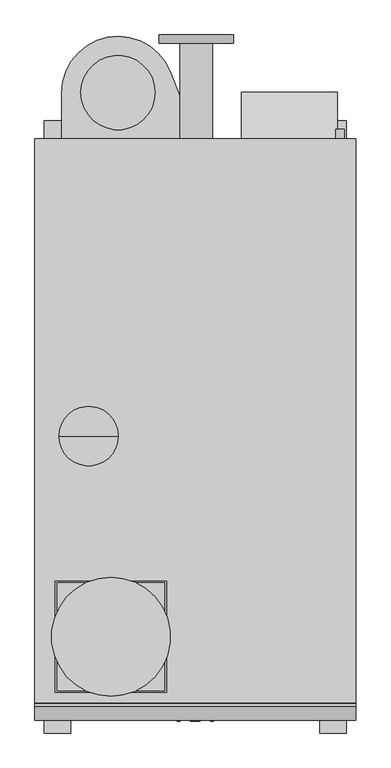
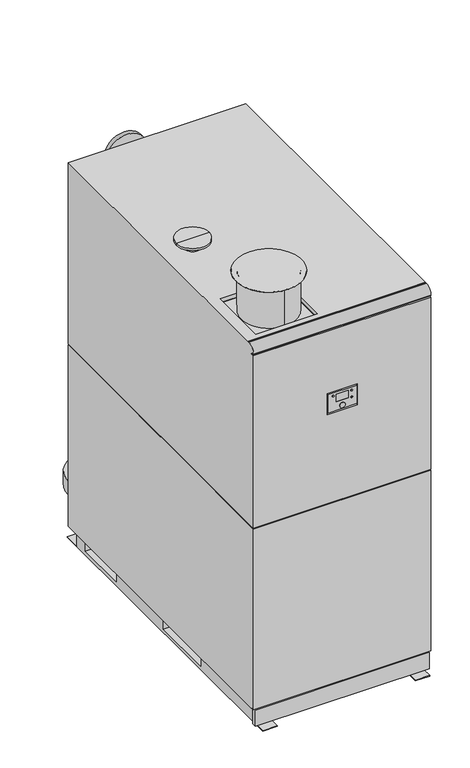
"""IFC4 building model written with IfcOpenShell, lengths in millimetres: unitary equipment geometry, AIC_Boiler_Nesta_Plus_280-840 : N 570 FS Chimney Type B."""

from ifc_helpers import new_model, si_unit, point, frame, frame_2d, origin, place, context, project, spatial, polyline, circle_curve, trimmed, segment, composite_curve, outline, extrude, faceted_brep, source, transform, mapped, element, save
from ifc_brep_helpers import plane_surface, cylinder_surface, advanced_brep


def unitary_equipment_0de9ce6d(model_context):
    return source(origin(), model_context, "Body", "SolidModel", [
        extrude(outline(composite_curve([segment(trimmed(circle_curve(frame_2d((100.0, 329.5)), 13.35), [point((100.0, 342.85))], [point((100.0, 316.15))], False, "CARTESIAN"), True, "CONTINUOUS"), segment(trimmed(circle_curve(frame_2d((100.0, 329.5)), 13.35), [point((100.0, 316.15))], [point((100.0, 342.85))], False, "CARTESIAN"), True, "CONTINUOUS")], self_intersect=False)), frame((0.0, 91.0, 0.0), z_axis=(0.0, 1.0, 0.0), x_axis=(0.0, 0.0, 1.0)), (0.0, 0.0, 1.0), 24.0),
        faceted_brep([(382.5, 0.0, 80.0), (382.5, 126.0, 80.0), (382.5, 126.0, 81.0), (382.5, 1.0, 81.0), (382.5, 1.0, 140.0), (382.5, 126.0, 140.0), (382.5, 126.0, 242.0), (382.5, 0.0, 310.0), (124.5, 0.0, 80.0), (124.5, 0.0, 310.0), (124.5, 126.0, 242.0), (124.5, 126.0, 80.0), (300.5, 126.0, 140.0), (300.5, 126.0, 81.0), (349.5, 1.0, 140.0), (349.5, 1.0, 81.0), (349.5, 91.0, 81.0), (349.5, 91.0, 140.0), (300.5, 91.0, 81.0), (300.5, 91.0, 140.0)], [[[0, 1, 2, 3, 4, 5, 6, 7]], [[8, 9, 10, 11]], [[1, 0, 8, 11]], [[11, 10, 6, 5, 12, 13, 2, 1]], [[7, 6, 10, 9]], [[0, 7, 9, 8]], [[14, 4, 3, 15]], [[14, 15, 16, 17]], [[15, 3, 2, 13, 18, 16]], [[4, 14, 17, 19, 12, 5]], [[19, 17, 16, 18]], [[19, 18, 13, 12]]]),
        extrude(outline(composite_curve([segment(trimmed(circle_curve(frame_2d((1520.0, 0.0)), 13.0), [point((1520.0, -13.0))], [point((1520.0, 13.0))], False, "CARTESIAN"), True, "CONTINUOUS"), segment(trimmed(circle_curve(frame_2d((1520.0, 0.0)), 13.0), [point((1520.0, 13.0))], [point((1520.0, -13.0))], False, "CARTESIAN"), True, "CONTINUOUS")], self_intersect=False)), frame((0.0, -1568.0, 0.0), z_axis=(0.0, 1.0, 0.0), x_axis=(0.0, 0.0, 1.0)), (0.0, 0.0, 1.0), 3.0),
        extrude(outline(composite_curve([segment(trimmed(circle_curve(frame_2d((1581.0, -45.0)), 4.0), [point((1581.0, -49.0))], [point((1581.0, -41.0))], False, "CARTESIAN"), True, "CONTINUOUS"), segment(trimmed(circle_curve(frame_2d((1581.0, -45.0)), 4.0), [point((1581.0, -41.0))], [point((1581.0, -49.0))], False, "CARTESIAN"), True, "CONTINUOUS")], self_intersect=False)), frame((0.0, -1567.0, 0.0), z_axis=(0.0, 1.0, 0.0), x_axis=(0.0, 0.0, 1.0)), (0.0, 0.0, 1.0), 2.0),
        extrude(outline(composite_curve([segment(trimmed(circle_curve(frame_2d((1581.0, 45.0)), 4.0), [point((1581.0, 41.0))], [point((1581.0, 49.0))], False, "CARTESIAN"), True, "CONTINUOUS"), segment(trimmed(circle_curve(frame_2d((1581.0, 45.0)), 4.0), [point((1581.0, 49.0))], [point((1581.0, 41.0))], False, "CARTESIAN"), True, "CONTINUOUS")], self_intersect=False)), frame((0.0, -1567.0, 0.0), z_axis=(0.0, 1.0, 0.0), x_axis=(0.0, 0.0, 1.0)), (0.0, 0.0, 1.0), 2.0),
        extrude(outline(composite_curve([segment(trimmed(circle_curve(frame_2d((1546.0, 45.0)), 4.0), [point((1546.0, 41.0))], [point((1546.0, 49.0))], False, "CARTESIAN"), True, "CONTINUOUS"), segment(trimmed(circle_curve(frame_2d((1546.0, 45.0)), 4.0), [point((1546.0, 49.0))], [point((1546.0, 41.0))], False, "CARTESIAN"), True, "CONTINUOUS")], self_intersect=False)), frame((0.0, -1567.0, 0.0), z_axis=(0.0, 1.0, 0.0), x_axis=(0.0, 0.0, 1.0)), (0.0, 0.0, 1.0), 2.0),
        faceted_brep([(71.0, -1555.0, 1596.0), (71.0, -1555.0, 1502.0), (-71.0, -1555.0, 1502.0), (-71.0, -1555.0, 1596.0), (71.0, -1565.0, 1596.0), (-71.0, -1565.0, 1596.0), (-71.0, -1565.0, 1502.0), (71.0, -1565.0, 1502.0), (-30.0, -1565.0, 1585.0), (30.0, -1565.0, 1585.0), (30.0, -1565.0, 1545.0), (-30.0, -1565.0, 1545.0), (30.0, -1564.0, 1585.0), (-30.0, -1564.0, 1585.0), (-30.0, -1564.0, 1545.0), (30.0, -1564.0, 1545.0)], [[[0, 1, 2, 3]], [[4, 5, 6, 7], [8, 9, 10, 11]], [[0, 3, 5, 4]], [[3, 2, 6, 5]], [[2, 1, 7, 6]], [[1, 0, 4, 7]], [[12, 13, 14, 15]], [[13, 12, 9, 8]], [[14, 13, 8, 11]], [[15, 14, 11, 10]], [[12, 15, 10, 9]]]),
        advanced_brep(
        [(-287.5, -800.0, 1970.0), (-324.5, -800.0, 1970.0), (-250.5, -800.0, 1970.0), (-207.5, -800.0, 2017.0), (-367.5, -800.0, 2017.0), (-287.5, -800.0, 2017.0), (-207.5, -800.0, 2006.0), (-367.5, -800.0, 2006.0), (-250.5, -800.0, 2006.0), (-324.5, -800.0, 2006.0)],
        [
            (0, 1),
            (1, 2, circle_curve(frame((-287.5, -800.0, 1970.0), z_axis=(0.0, 0.0, -1.0), x_axis=(-1.0, 0.0, 0.0)), 37.0)),
            (2, 0),
            (2, 1, circle_curve(frame((-287.5, -800.0, 1970.0), z_axis=(0.0, 0.0, -1.0), x_axis=(-1.0, 0.0, 0.0)), 37.0)),
            (3, 4, circle_curve(frame((-287.5, -800.0, 2017.0), z_axis=(0.0, 0.0, 1.0), x_axis=(-1.0, 0.0, 0.0)), 80.0)),
            (4, 5),
            (5, 3),
            (4, 3, circle_curve(frame((-287.5, -800.0, 2017.0), z_axis=(0.0, 0.0, 1.0), x_axis=(-1.0, 0.0, 0.0)), 80.0)),
            (6, 7, circle_curve(frame((-287.5, -800.0, 2006.0), z_axis=(0.0, 0.0, 1.0), x_axis=(-1.0, 0.0, 0.0)), 80.0)),
            (7, 4),
            (3, 6),
            (7, 6, circle_curve(frame((-287.5, -800.0, 2006.0), z_axis=(0.0, 0.0, 1.0), x_axis=(-1.0, 0.0, 0.0)), 80.0)),
            (8, 9, circle_curve(frame((-287.5, -800.0, 2006.0), z_axis=(0.0, 0.0, 1.0), x_axis=(-1.0, 0.0, 0.0)), 37.0)),
            (9, 7),
            (6, 8),
            (9, 8, circle_curve(frame((-287.5, -800.0, 2006.0), z_axis=(0.0, 0.0, 1.0), x_axis=(-1.0, 0.0, 0.0)), 37.0)),
            (1, 9),
            (8, 2),
        ],
        [
            plane_surface(frame((-287.5, -800.0, 1970.0), z_axis=(0.0, 0.0, -1.0), x_axis=(-1.0, 0.0, 0.0))),
            plane_surface(frame((-287.5, -800.0, 2017.0), z_axis=(0.0, 0.0, 1.0), x_axis=(-1.0, 0.0, 0.0))),
            cylinder_surface(frame((-287.5, -800.0, 1945.0), z_axis=(0.0, 0.0, -1.0), x_axis=(-1.0, 0.0, 0.0)), 80.0),
            plane_surface(frame((-287.5, -800.0, 2006.0), z_axis=(0.0, 0.0, -1.0), x_axis=(-1.0, 0.0, 0.0))),
            cylinder_surface(frame((-287.5, -800.0, 1945.0), z_axis=(0.0, 0.0, -1.0), x_axis=(-1.0, 0.0, 0.0)), 37.0),
        ],
        [
            (0, [[1, 2, 3]]),
            (0, [[-3, 4, -1]]),
            (1, [[5, 6, 7]]),
            (1, [[8, -7, -6]]),
            (2, [[9, 10, -5, 11]]),
            (2, [[12, -11, -8, -10]]),
            (3, [[13, 14, -9, 15]]),
            (3, [[16, -15, -12, -14]]),
            (4, [[-2, 17, -13, 18]]),
            (4, [[-4, -18, -16, -17]]),
        ],
    ),
        extrude(outline(composite_curve([segment(trimmed(circle_curve(frame_2d((1038.0, 390.5)), 11.6), [point((1038.0, 378.9))], [point((1038.0, 402.1))], False, "CARTESIAN"), True, "CONTINUOUS"), segment(trimmed(circle_curve(frame_2d((1038.0, 390.5)), 11.6), [point((1038.0, 402.1))], [point((1038.0, 378.9))], False, "CARTESIAN"), True, "CONTINUOUS")], self_intersect=False)), frame((0.0, 0.0, 0.0), z_axis=(0.0, 1.0, 0.0), x_axis=(0.0, 0.0, 1.0)), (0.0, 0.0, 1.0), 26.0),
        advanced_brep(
        [(-227.5, -1180.0, 2154.0), (-227.5, -1500.0, 2154.0), (-227.5, -1475.0, 2154.0), (-227.5, -1205.0, 2154.0), (-227.5, -1180.0, 2155.0), (-227.5, -1500.0, 2155.0), (-227.5, -1205.0, 1950.0), (-227.5, -1475.0, 1950.0)],
        [
            (0, 1, circle_curve(frame((-227.5, -1340.0, 2154.0), z_axis=(0.0, 0.0, -1.0), x_axis=(0.0, -1.0, 0.0)), 160.0)),
            (1, 0, circle_curve(frame((-227.5, -1340.0, 2154.0), z_axis=(0.0, 0.0, -1.0), x_axis=(0.0, -1.0, 0.0)), 160.0)),
            (2, 3, circle_curve(frame((-227.5, -1340.0, 2154.0), z_axis=(0.0, 0.0, 1.0), x_axis=(0.0, -1.0, 0.0)), 135.0)),
            (3, 2, circle_curve(frame((-227.5, -1340.0, 2154.0), z_axis=(0.0, 0.0, 1.0), x_axis=(0.0, -1.0, 0.0)), 135.0)),
            (4, 5, circle_curve(frame((-227.5, -1340.0, 2155.0), z_axis=(0.0, 0.0, 1.0), x_axis=(0.0, -1.0, 0.0)), 160.0)),
            (5, 4, circle_curve(frame((-227.5, -1340.0, 2155.0), z_axis=(0.0, 0.0, 1.0), x_axis=(0.0, -1.0, 0.0)), 160.0)),
            (0, 4),
            (5, 1),
            (6, 7, circle_curve(frame((-227.5, -1340.0, 1950.0), z_axis=(0.0, 0.0, -1.0), x_axis=(0.0, -1.0, 0.0)), 135.0)),
            (7, 6, circle_curve(frame((-227.5, -1340.0, 1950.0), z_axis=(0.0, 0.0, -1.0), x_axis=(0.0, -1.0, 0.0)), 135.0)),
            (6, 3),
            (2, 7),
        ],
        [
            plane_surface(frame((-227.5, -1500.0, 2154.0), z_axis=(0.0, 0.0, -1.0), x_axis=(-1.0, 0.0, 0.0))),
            plane_surface(frame((-227.5, -1500.0, 2155.0), z_axis=(0.0, 0.0, 1.0), x_axis=(1.0, 0.0, 0.0))),
            cylinder_surface(frame((-227.5, -1340.0, 2155.0), z_axis=(0.0, 0.0, -1.0), x_axis=(0.0, -1.0, 0.0)), 160.0),
            plane_surface(frame((-227.5, -1475.0, 1950.0), z_axis=(0.0, 0.0, -1.0), x_axis=(-1.0, 0.0, 0.0))),
            cylinder_surface(frame((-227.5, -1340.0, 2154.0), z_axis=(0.0, 0.0, -1.0), x_axis=(0.0, -1.0, 0.0)), 135.0),
        ],
        [
            (0, [[1, 2], [3, 4]]),
            (1, [[5, 6]]),
            (2, [[-1, 7, -6, 8]]),
            (2, [[-2, -8, -5, -7]]),
            (3, [[9, 10]]),
            (4, [[-9, 11, -3, 12]]),
            (4, [[-10, -12, -4, -11]]),
        ],
    ),
        extrude(outline(polyline([(-82.5, -1195.0), (-82.5, -1485.0), (-372.5, -1485.0), (-372.5, -1195.0), (-82.5, -1195.0)])), frame((0.0, 0.0, 1950.0), z_axis=(0.0, 0.0, 1.0), x_axis=(1.0, 0.0, 0.0)), (0.0, 0.0, 1.0), 1.0),
        advanced_brep(
        [(102.5, 258.0, 1706.0), (-97.5, 258.0, 1706.0), (46.5, 258.0, 1706.0), (-41.5, 258.0, 1706.0), (102.5, 280.0, 1706.0), (-97.5, 280.0, 1706.0), (-41.5, -10.0, 1706.0), (46.5, -10.0, 1706.0)],
        [
            (0, 1, circle_curve(frame((2.5, 258.0, 1706.0), z_axis=(0.0, -1.0, 0.0), x_axis=(-1.0, 0.0, 0.0)), 100.0)),
            (1, 0, circle_curve(frame((2.5, 258.0, 1706.0), z_axis=(0.0, -1.0, 0.0), x_axis=(-1.0, 0.0, 0.0)), 100.0)),
            (2, 3, circle_curve(frame((2.5, 258.0, 1706.0), z_axis=(0.0, 1.0, 0.0), x_axis=(1.0, 0.0, 0.0)), 44.0)),
            (3, 2, circle_curve(frame((2.5, 258.0, 1706.0), z_axis=(0.0, 1.0, 0.0), x_axis=(1.0, 0.0, 0.0)), 44.0)),
            (4, 5, circle_curve(frame((2.5, 280.0, 1706.0), z_axis=(0.0, 1.0, 0.0), x_axis=(-1.0, 0.0, 0.0)), 100.0)),
            (5, 4, circle_curve(frame((2.5, 280.0, 1706.0), z_axis=(0.0, 1.0, 0.0), x_axis=(-1.0, 0.0, 0.0)), 100.0)),
            (1, 5),
            (4, 0),
            (6, 7, circle_curve(frame((2.5, -10.0, 1706.0), z_axis=(0.0, -1.0, 0.0), x_axis=(1.0, 0.0, 0.0)), 44.0)),
            (7, 6, circle_curve(frame((2.5, -10.0, 1706.0), z_axis=(0.0, -1.0, 0.0), x_axis=(1.0, 0.0, 0.0)), 44.0)),
            (6, 3),
            (2, 7),
        ],
        [
            plane_surface(frame((-97.5, 258.0, 1706.0), z_axis=(0.0, -1.0, 0.0), x_axis=(0.0, 0.0, -1.0))),
            plane_surface(frame((-97.5, 280.0, 1706.0), z_axis=(0.0, 1.0, 0.0), x_axis=(0.0, 0.0, 1.0))),
            cylinder_surface(frame((2.5, 258.0, 1706.0), z_axis=(0.0, 1.0, 0.0), x_axis=(-1.0, 0.0, 0.0)), 100.0),
            plane_surface(frame((46.5, -10.0, 1706.0), z_axis=(0.0, -1.0, 0.0), x_axis=(0.0, 0.0, 1.0))),
            cylinder_surface(frame((2.5, 280.0, 1706.0), z_axis=(0.0, -1.0, 0.0), x_axis=(1.0, 0.0, 0.0)), 44.0),
        ],
        [
            (0, [[1, 2], [3, 4]]),
            (1, [[5, 6]]),
            (2, [[-2, 7, -5, 8]]),
            (2, [[-1, -8, -6, -7]]),
            (3, [[9, 10]]),
            (4, [[-9, 11, -3, 12]]),
            (4, [[-10, -12, -4, -11]]),
        ],
    ),
        advanced_brep(
        [(-41.5, 0.0, 335.0), (46.5, 0.0, 335.0), (102.5, 280.0, 335.0), (-97.5, 280.0, 335.0), (-41.5, 258.0, 335.0), (46.5, 258.0, 335.0), (102.5, 258.0, 335.0), (-97.5, 258.0, 335.0)],
        [
            (0, 1, circle_curve(frame((2.5, 0.0, 335.0), z_axis=(0.0, -1.0, 0.0), x_axis=(1.0, 0.0, 0.0)), 44.0)),
            (1, 0, circle_curve(frame((2.5, 0.0, 335.0), z_axis=(0.0, -1.0, 0.0), x_axis=(1.0, 0.0, 0.0)), 44.0)),
            (2, 3, circle_curve(frame((2.5, 280.0, 335.0), z_axis=(0.0, 1.0, 0.0), x_axis=(-1.0, 0.0, 0.0)), 100.0)),
            (3, 2, circle_curve(frame((2.5, 280.0, 335.0), z_axis=(0.0, 1.0, 0.0), x_axis=(-1.0, 0.0, 0.0)), 100.0)),
            (0, 4),
            (4, 5, circle_curve(frame((2.5, 258.0, 335.0), z_axis=(0.0, -1.0, 0.0), x_axis=(1.0, 0.0, 0.0)), 44.0)),
            (5, 1),
            (5, 4, circle_curve(frame((2.5, 258.0, 335.0), z_axis=(0.0, -1.0, 0.0), x_axis=(1.0, 0.0, 0.0)), 44.0)),
            (6, 7, circle_curve(frame((2.5, 258.0, 335.0), z_axis=(0.0, -1.0, 0.0), x_axis=(-1.0, 0.0, 0.0)), 100.0)),
            (7, 6, circle_curve(frame((2.5, 258.0, 335.0), z_axis=(0.0, -1.0, 0.0), x_axis=(-1.0, 0.0, 0.0)), 100.0)),
            (7, 3),
            (2, 6),
        ],
        [
            plane_surface(frame((46.5, 0.0, 335.0), z_axis=(0.0, -1.0, 0.0), x_axis=(0.0, 0.0, 1.0))),
            plane_surface(frame((46.5, 280.0, 335.0), z_axis=(0.0, 1.0, 0.0), x_axis=(0.0, 0.0, -1.0))),
            cylinder_surface(frame((2.5, 280.0, 335.0), z_axis=(0.0, -1.0, 0.0), x_axis=(1.0, 0.0, 0.0)), 44.0),
            plane_surface(frame((-97.5, 258.0, 335.0), z_axis=(0.0, -1.0, 0.0), x_axis=(0.0, 0.0, -1.0))),
            cylinder_surface(frame((2.5, 258.0, 335.0), z_axis=(0.0, 1.0, 0.0), x_axis=(-1.0, 0.0, 0.0)), 100.0),
        ],
        [
            (0, [[1, 2]]),
            (1, [[3, 4]]),
            (2, [[-1, 5, 6, 7]]),
            (2, [[-2, -7, 8, -5]]),
            (3, [[9, 10], [-6, -8]]),
            (4, [[-10, 11, -3, 12]]),
            (4, [[-9, -12, -4, -11]]),
        ],
    ),
        extrude(outline(composite_curve([segment(trimmed(circle_curve(frame_2d((-208.5, 125.0)), 100.0), [point((-108.5, 125.0))], [point((-308.5, 125.0))], False, "CARTESIAN"), True, "CONTINUOUS"), segment(trimmed(circle_curve(frame_2d((-208.5, 125.0)), 100.0), [point((-308.5, 125.0))], [point((-108.5, 125.0))], False, "CARTESIAN"), True, "CONTINUOUS")], self_intersect=False)), frame((0.0, 0.0, 228.0), z_axis=(0.0, 0.0, 1.0), x_axis=(1.0, 0.0, 0.0)), (0.0, 0.0, 1.0), 97.0),
        extrude(outline(composite_curve([segment(trimmed(circle_curve(frame_2d((-208.5, 125.0)), 151.4514382), [point((-359.9514382, 125.0))], [point((-67.3169163, 179.8167402))], False, "CARTESIAN"), True, "CONTINUOUS"), segment(polyline([(-67.3169163, 179.8167402), (2.5, 0.0), (-359.9514382, 0.0), (-359.9514382, 125.0)]), True, "CONTINUOUS")], self_intersect=False)), frame((0.0, 0.0, 157.0), z_axis=(0.0, 0.0, 1.0), x_axis=(1.0, 0.0, 0.0)), (0.0, 0.0, 1.0), 71.0),
        advanced_brep(
        [(432.5, 0.0, 1970.0), (-432.5, 0.0, 1970.0), (-432.5, -1517.0, 1970.0), (432.5, -1517.0, 1970.0), (-377.5, -1190.0, 1970.0), (-77.5, -1190.0, 1970.0), (-77.5, -1490.0, 1970.0), (-377.5, -1490.0, 1970.0), (-432.5, -1526.6616502, 1970.0), (432.5, -1526.6616502, 1970.0), (432.5, -1521.0, 1970.0), (-432.5, -1521.0, 1970.0), (36.0, -1545.0, 0.0), (-36.0, -1545.0, 0.0), (-36.0, -31.0, 0.0), (36.0, -31.0, 0.0), (-407.5, 49.0, 0.0), (-335.5, 49.0, 0.0), (-335.5, -1599.0, 0.0), (-407.5, -1599.0, 0.0), (335.5, 49.0, 0.0), (407.5, 49.0, 0.0), (407.5, -1599.0, 0.0), (335.5, -1599.0, 0.0), (432.5, 0.0, 1036.0), (432.5, -1517.0, 1968.0), (432.5, -1521.0, 1968.0), (432.5, -1565.0, 1931.6616502), (432.5, -1565.0, 1929.0), (432.5, -1545.0, 1929.0), (432.5, -1545.0, 1923.0), (432.5, -1565.0, 1923.0), (432.5, -1565.0, 1036.0), (432.5, 0.0, 1030.0), (432.5, -1565.0, 1030.0), (432.5, -1565.0, 100.0), (432.5, -1545.0, 100.0), (432.5, -1545.0, 95.0), (432.5, 0.0, 95.0), (423.5, 0.0, 1036.0), (423.5, 0.0, 1030.0), (-432.5, 0.0, 95.0), (-432.5, 0.0, 1030.0), (-423.5, 0.0, 1030.0), (-423.5, 0.0, 1036.0), (-432.5, 0.0, 1036.0), (-432.5, -1565.0, 1036.0), (-432.5, -1565.0, 1923.0), (-432.5, -1545.0, 1923.0), (-432.5, -1545.0, 1929.0), (-432.5, -1565.0, 1929.0), (-432.5, -1565.0, 1931.6616502), (-432.5, -1521.0, 1968.0), (-432.5, -1517.0, 1968.0), (-432.5, -1565.0, 1030.0), (-432.5, -1545.0, 95.0), (-432.5, -1545.0, 100.0), (-432.5, -1565.0, 100.0), (-73.0, -1565.0, 1603.0), (73.0, -1565.0, 1603.0), (73.0, -1565.0, 1495.0), (-73.0, -1565.0, 1495.0), (423.5, -1565.0, 12.0), (423.5, -1565.0, 95.0), (-423.5, -1565.0, 95.0), (-423.5, -1565.0, 12.0), (-423.5, -1545.0, 1036.0), (423.5, -1545.0, 1036.0), (423.5, -1545.0, 1030.0), (-423.5, -1545.0, 1030.0), (36.0, -1545.0, 12.0), (-36.0, -1545.0, 12.0), (-423.5, -1545.0, 95.0), (-407.5, -1545.0, 95.0), (-335.5, -1545.0, 95.0), (-36.0, -1545.0, 95.0), (36.0, -1545.0, 95.0), (335.5, -1545.0, 95.0), (407.5, -1545.0, 95.0), (423.5, -1545.0, 95.0), (-335.5, -1545.0, 12.0), (-407.5, -1545.0, 12.0), (-407.5, -1545.0, 3.0), (-335.5, -1545.0, 3.0), (407.5, -1545.0, 12.0), (335.5, -1545.0, 12.0), (335.5, -1545.0, 3.0), (407.5, -1545.0, 3.0), (423.5, -1545.0, 12.0), (-423.5, -1545.0, 12.0), (-36.0, -1545.0, 95.0), (-335.5, -1545.0, 95.0), (-335.5, -31.0, 95.0), (-407.5, -31.0, 95.0), (-407.5, -1545.0, 95.0), (407.5, -1545.0, 95.0), (407.5, -31.0, 95.0), (335.5, -31.0, 95.0), (335.5, -1545.0, 95.0), (36.0, -1545.0, 95.0), (36.0, -31.0, 95.0), (-36.0, -31.0, 95.0), (-407.5, -31.0, 3.0), (-407.5, 49.0, 3.0), (-407.5, -1599.0, 3.0), (-407.5, -762.0, 80.0), (-407.5, -1077.0, 80.0), (-407.5, -1077.0, 20.0), (-407.5, -762.0, 20.0), (-407.5, -100.0, 80.0), (-407.5, -362.0, 80.0), (-407.5, -362.0, 20.0), (-407.5, -100.0, 20.0), (407.5, -1599.0, 3.0), (407.5, 49.0, 3.0), (407.5, -31.0, 3.0), (407.5, -1077.0, 80.0), (407.5, -762.0, 80.0), (407.5, -762.0, 20.0), (407.5, -1077.0, 20.0), (407.5, -362.0, 80.0), (407.5, -100.0, 80.0), (407.5, -100.0, 20.0), (407.5, -362.0, 20.0), (-335.5, -1599.0, 3.0), (-335.5, 49.0, 3.0), (-335.5, -31.0, 3.0), (-335.5, -1077.0, 80.0), (-335.5, -762.0, 80.0), (-335.5, -762.0, 20.0), (-335.5, -1077.0, 20.0), (-335.5, -362.0, 80.0), (-335.5, -100.0, 80.0), (-335.5, -100.0, 20.0), (-335.5, -362.0, 20.0), (-36.0, -762.0, 80.0), (-36.0, -1077.0, 80.0), (-36.0, -1077.0, 20.0), (-36.0, -762.0, 20.0), (-36.0, -100.0, 80.0), (-36.0, -362.0, 80.0), (-36.0, -362.0, 20.0), (-36.0, -100.0, 20.0), (36.0, -1077.0, 80.0), (36.0, -762.0, 80.0), (36.0, -762.0, 20.0), (36.0, -1077.0, 20.0), (36.0, -362.0, 80.0), (36.0, -100.0, 80.0), (36.0, -100.0, 20.0), (36.0, -362.0, 20.0), (335.5, -31.0, 3.0), (335.5, 49.0, 3.0), (335.5, -1599.0, 3.0), (335.5, -762.0, 80.0), (335.5, -1077.0, 80.0), (335.5, -1077.0, 20.0), (335.5, -762.0, 20.0), (335.5, -100.0, 80.0), (335.5, -362.0, 80.0), (335.5, -362.0, 20.0), (335.5, -100.0, 20.0), (73.0, -1545.0, 1603.0), (-73.0, -1545.0, 1603.0), (-73.0, -1545.0, 1495.0), (73.0, -1545.0, 1495.0), (-77.5, -1190.0, 1950.0), (-377.5, -1190.0, 1950.0), (-377.5, -1490.0, 1950.0), (-77.5, -1490.0, 1950.0)],
        [
            (0, 1),
            (1, 2),
            (2, 3),
            (3, 0),
            (4, 5),
            (5, 6),
            (6, 7),
            (7, 4),
            (8, 9),
            (9, 10),
            (10, 11),
            (11, 8),
            (12, 13),
            (13, 14),
            (14, 15),
            (15, 12),
            (16, 17),
            (17, 18),
            (18, 19),
            (19, 16),
            (20, 21),
            (21, 22),
            (22, 23),
            (23, 20),
            (24, 0),
            (3, 25),
            (25, 26),
            (26, 10),
            (9, 27, circle_curve(frame((432.5, -1526.6616502, 1931.6616502), z_axis=(1.0, 0.0, 0.0), x_axis=(0.0, 1.0, 0.0)), 38.3383498)),
            (27, 28),
            (28, 29),
            (29, 30),
            (30, 31),
            (31, 32),
            (32, 24),
            (33, 34),
            (34, 35),
            (35, 36),
            (36, 37),
            (37, 38),
            (38, 33),
            (24, 39),
            (39, 40),
            (40, 33),
            (38, 41),
            (41, 42),
            (42, 43),
            (43, 44),
            (44, 45),
            (45, 1),
            (45, 46),
            (46, 47),
            (47, 48),
            (48, 49),
            (49, 50),
            (50, 51),
            (51, 8, circle_curve(frame((-432.5, -1526.6616502, 1931.6616502), z_axis=(-1.0, 0.0, 0.0), x_axis=(0.0, 1.0, 0.0)), 38.3383498)),
            (11, 52),
            (52, 53),
            (53, 2),
            (54, 42),
            (41, 55),
            (55, 56),
            (56, 57),
            (57, 54),
            (46, 32),
            (31, 47),
            (58, 59),
            (59, 60),
            (60, 61),
            (61, 58),
            (34, 54),
            (57, 35),
            (27, 51),
            (50, 28),
            (62, 63),
            (63, 64),
            (64, 65),
            (65, 62),
            (44, 66),
            (66, 67),
            (67, 39),
            (40, 68),
            (68, 69),
            (69, 43),
            (67, 68),
            (66, 69),
            (30, 48),
            (29, 49),
            (26, 52),
            (25, 53),
            (12, 70),
            (70, 71),
            (71, 13),
            (36, 56),
            (55, 72),
            (72, 73),
            (73, 74),
            (74, 75),
            (75, 76),
            (76, 77),
            (77, 78),
            (78, 79),
            (79, 37),
            (80, 81),
            (81, 82),
            (82, 83),
            (83, 80),
            (84, 85),
            (85, 86),
            (86, 87),
            (87, 84),
            (62, 88),
            (88, 79),
            (79, 63),
            (65, 89),
            (89, 81),
            (80, 71),
            (70, 85),
            (84, 88),
            (64, 72),
            (72, 89),
            (90, 91),
            (91, 92),
            (92, 93),
            (93, 94),
            (94, 72),
            (79, 95),
            (95, 96),
            (96, 97),
            (97, 98),
            (98, 99),
            (99, 100),
            (100, 101),
            (101, 90),
            (94, 81),
            (93, 102),
            (102, 103),
            (103, 16),
            (19, 104),
            (104, 82),
            (105, 106),
            (106, 107),
            (107, 108),
            (108, 105),
            (109, 110),
            (110, 111),
            (111, 112),
            (112, 109),
            (95, 84),
            (87, 113),
            (113, 22),
            (21, 114),
            (114, 115),
            (115, 96),
            (116, 117),
            (117, 118),
            (118, 119),
            (119, 116),
            (120, 121),
            (121, 122),
            (122, 123),
            (123, 120),
            (91, 80),
            (83, 124),
            (124, 18),
            (17, 125),
            (125, 126),
            (126, 92),
            (127, 128),
            (128, 129),
            (129, 130),
            (130, 127),
            (131, 132),
            (132, 133),
            (133, 134),
            (134, 131),
            (90, 71),
            (101, 14),
            (135, 136),
            (136, 137),
            (137, 138),
            (138, 135),
            (139, 140),
            (140, 141),
            (141, 142),
            (142, 139),
            (99, 70),
            (15, 100),
            (143, 144),
            (144, 145),
            (145, 146),
            (146, 143),
            (147, 148),
            (148, 149),
            (149, 150),
            (150, 147),
            (98, 85),
            (97, 151),
            (151, 152),
            (152, 20),
            (23, 153),
            (153, 86),
            (154, 155),
            (155, 156),
            (156, 157),
            (157, 154),
            (158, 159),
            (159, 160),
            (160, 161),
            (161, 158),
            (126, 102),
            (115, 151),
            (105, 128),
            (127, 106),
            (135, 144),
            (143, 136),
            (154, 117),
            (116, 155),
            (130, 107),
            (146, 137),
            (119, 156),
            (129, 108),
            (145, 138),
            (118, 157),
            (109, 132),
            (131, 110),
            (139, 148),
            (147, 140),
            (158, 121),
            (120, 159),
            (134, 111),
            (150, 141),
            (123, 160),
            (133, 112),
            (149, 142),
            (122, 161),
            (114, 152),
            (125, 103),
            (104, 124),
            (153, 113),
            (162, 163),
            (163, 164),
            (164, 165),
            (165, 162),
            (162, 59),
            (58, 163),
            (61, 164),
            (60, 165),
            (166, 167),
            (167, 168),
            (168, 169),
            (169, 166),
            (166, 5),
            (4, 167),
            (7, 168),
            (6, 169),
        ],
        [
            plane_surface(frame((432.5, -1565.0, 1970.0), z_axis=(0.0, 0.0, 1.0), x_axis=(0.0, 1.0, 0.0))),
            plane_surface(frame((432.5, -1565.0, 0.0), z_axis=(0.0, 0.0, -1.0), x_axis=(0.0, -1.0, 0.0))),
            plane_surface(frame((432.5, -1565.0, 1970.0), z_axis=(1.0, 0.0, 0.0), x_axis=(0.0, 0.0, -1.0))),
            plane_surface(frame((432.5, 0.0, 1970.0), z_axis=(0.0, 1.0, 0.0), x_axis=(0.0, 0.0, -1.0))),
            plane_surface(frame((-432.5, 0.0, 1970.0), z_axis=(-1.0, 0.0, 0.0), x_axis=(0.0, 0.0, -1.0))),
            plane_surface(frame((-432.5, -1565.0, 1970.0), z_axis=(0.0, -1.0, 0.0), x_axis=(0.0, 0.0, -1.0))),
            plane_surface(frame((-432.5, 0.0, 1036.0), z_axis=(0.0, 0.0, -1.0), x_axis=(-1.0, 0.0, 0.0))),
            plane_surface(frame((-432.5, 0.0, 1030.0), z_axis=(0.0, 0.0, 1.0), x_axis=(1.0, 0.0, 0.0))),
            plane_surface(frame((423.5, 0.0, 1036.0), z_axis=(1.0, 0.0, 0.0), x_axis=(0.0, 0.0, -1.0))),
            plane_surface(frame((423.5, -1545.0, 1036.0), z_axis=(0.0, -1.0, 0.0), x_axis=(0.0, 0.0, -1.0))),
            plane_surface(frame((-423.5, -1545.0, 1036.0), z_axis=(-1.0, 0.0, 0.0), x_axis=(0.0, 0.0, -1.0))),
            cylinder_surface(frame((-432.5, -1526.6616502, 1931.6616502), z_axis=(-1.0, 0.0, 0.0), x_axis=(0.0, 1.0, 0.0)), 38.3383498),
            plane_surface(frame((432.5, -1565.0, 1923.0), z_axis=(0.0, 0.0, 1.0), x_axis=(-1.0, 0.0, 0.0))),
            plane_surface(frame((432.5, -1545.0, 1923.0), z_axis=(0.0, -1.0, 0.0), x_axis=(-1.0, 0.0, 0.0))),
            plane_surface(frame((432.5, -1545.0, 1929.0), z_axis=(0.0, 0.0, -1.0), x_axis=(-1.0, 0.0, 0.0))),
            plane_surface(frame((432.5, -1521.0, 1970.0), z_axis=(0.0, 1.0, 0.0), x_axis=(-1.0, 0.0, 0.0))),
            plane_surface(frame((432.5, -1521.0, 1968.0), z_axis=(0.0, 0.0, 1.0), x_axis=(-1.0, 0.0, 0.0))),
            plane_surface(frame((432.5, -1517.0, 1968.0), z_axis=(0.0, -1.0, 0.0), x_axis=(-1.0, 0.0, 0.0))),
            plane_surface(frame((423.5, -1545.0, 95.0), z_axis=(0.0, -1.0, 0.0), x_axis=(0.0, 0.0, 1.0))),
            plane_surface(frame((423.5, -1565.0, 95.0), z_axis=(1.0, 0.0, 0.0), x_axis=(0.0, 1.0, 0.0))),
            plane_surface(frame((423.5, -1565.0, 12.0), z_axis=(0.0, 0.0, -1.0), x_axis=(0.0, 1.0, 0.0))),
            plane_surface(frame((-423.5, -1565.0, 12.0), z_axis=(-1.0, 0.0, 0.0), x_axis=(0.0, 1.0, 0.0))),
            plane_surface(frame((-423.5, -1565.0, 95.0), z_axis=(0.0, 0.0, 1.0), x_axis=(0.0, 1.0, 0.0))),
            plane_surface(frame((432.5, -1565.0, 100.0), z_axis=(0.0, 0.0, -1.0), x_axis=(0.0, 1.0, 0.0))),
            plane_surface(frame((-432.5, 0.0, 95.0), z_axis=(0.0, 0.0, -1.0), x_axis=(-1.0, 0.0, 0.0))),
            plane_surface(frame((-432.5, -1545.0, 95.0), z_axis=(0.0, 1.0, 0.0), x_axis=(0.0, 0.0, -1.0))),
            plane_surface(frame((-407.5, -1545.0, 95.0), z_axis=(-1.0, 0.0, 0.0), x_axis=(0.0, 0.0, -1.0))),
            plane_surface(frame((407.5, 0.0, 95.0), z_axis=(1.0, 0.0, 0.0), x_axis=(0.0, 0.0, -1.0))),
            plane_surface(frame((407.5, -1545.0, 95.0), z_axis=(0.0, 1.0, 0.0), x_axis=(0.0, 0.0, -1.0))),
            plane_surface(frame((-335.5, 0.0, 95.0), z_axis=(1.0, 0.0, 0.0), x_axis=(0.0, 0.0, -1.0))),
            plane_surface(frame((-335.5, -1545.0, 95.0), z_axis=(0.0, 1.0, 0.0), x_axis=(0.0, 0.0, -1.0))),
            plane_surface(frame((-36.0, -1545.0, 95.0), z_axis=(-1.0, 0.0, 0.0), x_axis=(0.0, 0.0, -1.0))),
            plane_surface(frame((36.0, 0.0, 95.0), z_axis=(1.0, 0.0, 0.0), x_axis=(0.0, 0.0, -1.0))),
            plane_surface(frame((36.0, -1545.0, 95.0), z_axis=(0.0, 1.0, 0.0), x_axis=(0.0, 0.0, -1.0))),
            plane_surface(frame((335.5, -1545.0, 95.0), z_axis=(-1.0, 0.0, 0.0), x_axis=(0.0, 0.0, -1.0))),
            plane_surface(frame((-432.5, -31.0, 95.0), z_axis=(0.0, 1.0, 0.0), x_axis=(0.0, 0.0, -1.0))),
            plane_surface(frame((407.5, -762.0, 80.0), z_axis=(0.0, 0.0, -1.0), x_axis=(-1.0, 0.0, 0.0))),
            plane_surface(frame((407.5, -1077.0, 80.0), z_axis=(0.0, 1.0, 0.0), x_axis=(-1.0, 0.0, 0.0))),
            plane_surface(frame((407.5, -1077.0, 20.0), z_axis=(0.0, 0.0, 1.0), x_axis=(-1.0, 0.0, 0.0))),
            plane_surface(frame((407.5, -762.0, 20.0), z_axis=(0.0, -1.0, 0.0), x_axis=(-1.0, 0.0, 0.0))),
            plane_surface(frame((407.5, -100.0, 80.0), z_axis=(0.0, 0.0, -1.0), x_axis=(-1.0, 0.0, 0.0))),
            plane_surface(frame((407.5, -362.0, 80.0), z_axis=(0.0, 1.0, 0.0), x_axis=(-1.0, 0.0, 0.0))),
            plane_surface(frame((407.5, -362.0, 20.0), z_axis=(0.0, 0.0, 1.0), x_axis=(-1.0, 0.0, 0.0))),
            plane_surface(frame((407.5, -100.0, 20.0), z_axis=(0.0, -1.0, 0.0), x_axis=(-1.0, 0.0, 0.0))),
            plane_surface(frame((-407.5, 49.0, 3.0), z_axis=(0.0, 0.0, 1.0), x_axis=(-1.0, 0.0, 0.0))),
            plane_surface(frame((-335.5, 49.0, 3.0), z_axis=(0.0, 1.0, 0.0), x_axis=(0.0, 0.0, -1.0))),
            plane_surface(frame((407.5, 49.0, 3.0), z_axis=(0.0, 1.0, 0.0), x_axis=(0.0, 0.0, -1.0))),
            plane_surface(frame((-407.5, -1599.0, 3.0), z_axis=(0.0, -1.0, 0.0), x_axis=(0.0, 0.0, -1.0))),
            plane_surface(frame((335.5, -1599.0, 3.0), z_axis=(0.0, -1.0, 0.0), x_axis=(0.0, 0.0, -1.0))),
            plane_surface(frame((-73.0, -1545.0, 1603.0), z_axis=(0.0, -1.0, 0.0), x_axis=(1.0, 0.0, 0.0))),
            plane_surface(frame((73.0, -1565.0, 1603.0), z_axis=(0.0, 0.0, -1.0), x_axis=(0.0, 1.0, 0.0))),
            plane_surface(frame((-73.0, -1565.0, 1603.0), z_axis=(1.0, 0.0, 0.0), x_axis=(0.0, 1.0, 0.0))),
            plane_surface(frame((-73.0, -1565.0, 1495.0), z_axis=(0.0, 0.0, 1.0), x_axis=(0.0, 1.0, 0.0))),
            plane_surface(frame((73.0, -1565.0, 1495.0), z_axis=(-1.0, 0.0, 0.0), x_axis=(0.0, 1.0, 0.0))),
            plane_surface(frame((-377.5, -1190.0, 1950.0), z_axis=(0.0, 0.0, 1.0), x_axis=(1.0, 0.0, 0.0))),
            plane_surface(frame((-77.5, -1190.0, 1970.0), z_axis=(0.0, -1.0, 0.0), x_axis=(0.0, 0.0, -1.0))),
            plane_surface(frame((-377.5, -1190.0, 1970.0), z_axis=(1.0, 0.0, 0.0), x_axis=(0.0, 0.0, -1.0))),
            plane_surface(frame((-377.5, -1490.0, 1970.0), z_axis=(0.0, 1.0, 0.0), x_axis=(0.0, 0.0, -1.0))),
            plane_surface(frame((-77.5, -1490.0, 1970.0), z_axis=(-1.0, 0.0, 0.0), x_axis=(0.0, 0.0, -1.0))),
        ],
        [
            (0, [[1, 2, 3, 4], [5, 6, 7, 8]]),
            (0, [[9, 10, 11, 12]]),
            (1, [[13, 14, 15, 16]]),
            (1, [[17, 18, 19, 20]]),
            (1, [[21, 22, 23, 24]]),
            (2, [[25, -4, 26, 27, 28, -10, 29, 30, 31, 32, 33, 34, 35]]),
            (2, [[36, 37, 38, 39, 40, 41]]),
            (3, [[-1, -25, 42, 43, 44, -41, 45, 46, 47, 48, 49, 50]]),
            (4, [[-50, 51, 52, 53, 54, 55, 56, 57, -12, 58, 59, 60, -2]]),
            (4, [[61, -46, 62, 63, 64, 65]]),
            (5, [[66, -34, 67, -52], [68, 69, 70, 71]]),
            (5, [[72, -65, 73, -37]]),
            (5, [[74, -56, 75, -30]]),
            (5, [[76, 77, 78, 79]]),
            (6, [[80, 81, 82, -42, -35, -66, -51, -49]]),
            (7, [[83, 84, 85, -47, -61, -72, -36, -44]]),
            (8, [[-82, 86, -83, -43]]),
            (9, [[-81, 87, -84, -86]]),
            (10, [[-80, -48, -85, -87]]),
            (11, [[-9, -57, -74, -29]]),
            (12, [[88, -53, -67, -33]]),
            (13, [[-88, -32, 89, -54]]),
            (14, [[-89, -31, -75, -55]]),
            (15, [[90, -58, -11, -28]]),
            (16, [[-90, -27, 91, -59]]),
            (17, [[-91, -26, -3, -60]]),
            (18, [[-13, 92, 93, 94]]),
            (18, [[95, -63, 96, 97, 98, 99, 100, 101, 102, 103, 104, -39]]),
            (18, [[105, 106, 107, 108]]),
            (18, [[109, 110, 111, 112]]),
            (19, [[113, 114, 115, -76]]),
            (20, [[-113, -79, 116, 117, -105, 118, -93, 119, -109, 120]]),
            (21, [[-116, -78, 121, 122]]),
            (22, [[-115, -103, -102, -101, -100, -99, -98, -97, -121, -77]]),
            (23, [[-95, -38, -73, -64]]),
            (24, [[123, 124, 125, 126, 127, -96, -62, -45, -40, -104, 128, 129, 130, 131, 132, 133, 134, 135]]),
            (25, [[136, -117, -122, -127]]),
            (26, [[-136, -126, 137, 138, 139, -20, 140, 141, -106], [142, 143, 144, 145], [146, 147, 148, 149]]),
            (27, [[150, -112, 151, 152, -22, 153, 154, 155, -129], [156, 157, 158, 159], [160, 161, 162, 163]]),
            (28, [[-128, -114, -120, -150]]),
            (29, [[164, -108, 165, 166, -18, 167, 168, 169, -124], [170, 171, 172, 173], [174, 175, 176, 177]]),
            (30, [[-123, 178, -118, -164]]),
            (31, [[-178, -135, 179, -14, -94], [180, 181, 182, 183], [184, 185, 186, 187]]),
            (32, [[188, -92, -16, 189, -133], [190, 191, 192, 193], [194, 195, 196, 197]]),
            (33, [[-132, 198, -119, -188]]),
            (34, [[-198, -131, 199, 200, 201, -24, 202, 203, -110], [204, 205, 206, 207], [208, 209, 210, 211]]),
            (35, [[-125, -169, 212, -137]]),
            (35, [[-130, -155, 213, -199]]),
            (35, [[-134, -189, -15, -179]]),
            (36, [[214, -170, 215, -142]]),
            (36, [[216, -190, 217, -180]]),
            (36, [[218, -156, 219, -204]]),
            (37, [[-215, -173, 220, -143]]),
            (37, [[-217, -193, 221, -181]]),
            (37, [[-219, -159, 222, -205]]),
            (38, [[-220, -172, 223, -144]]),
            (38, [[-221, -192, 224, -182]]),
            (38, [[-222, -158, 225, -206]]),
            (39, [[-214, -145, -223, -171]]),
            (39, [[-216, -183, -224, -191]]),
            (39, [[-218, -207, -225, -157]]),
            (40, [[226, -174, 227, -146]]),
            (40, [[228, -194, 229, -184]]),
            (40, [[230, -160, 231, -208]]),
            (41, [[-227, -177, 232, -147]]),
            (41, [[-229, -197, 233, -185]]),
            (41, [[-231, -163, 234, -209]]),
            (42, [[-232, -176, 235, -148]]),
            (42, [[-233, -196, 236, -186]]),
            (42, [[-234, -162, 237, -210]]),
            (43, [[-226, -149, -235, -175]]),
            (43, [[-228, -187, -236, -195]]),
            (43, [[-230, -211, -237, -161]]),
            (44, [[-200, -213, -154, 238]]),
            (44, [[239, -138, -212, -168]]),
            (44, [[240, -165, -107, -141]]),
            (44, [[241, -151, -111, -203]]),
            (45, [[-239, -167, -17, -139]]),
            (46, [[-238, -153, -21, -201]]),
            (47, [[-240, -140, -19, -166]]),
            (48, [[-241, -202, -23, -152]]),
            (49, [[242, 243, 244, 245]]),
            (50, [[-242, 246, -68, 247]]),
            (51, [[-243, -247, -71, 248]]),
            (52, [[-244, -248, -70, 249]]),
            (53, [[-245, -249, -69, -246]]),
            (54, [[250, 251, 252, 253]]),
            (55, [[-250, 254, -5, 255]]),
            (56, [[-251, -255, -8, 256]]),
            (57, [[-252, -256, -7, 257]]),
            (58, [[-253, -257, -6, -254]]),
        ],
    ),
    ])


if __name__ == "__main__":
    model = new_model("IFC4")
    model_context = context("Model", 3, world=origin())
    ifc_project = project(units=[si_unit("LENGTHUNIT", "METRE", prefix="MILLI")], contexts=[model_context])
    site = spatial("IfcSite", under=ifc_project)
    building = spatial("IfcBuilding", under=site)
    placement = place(None, origin())
    unitary_equipment_shape = unitary_equipment_0de9ce6d(model_context)
    element("IfcUnitaryEquipment", 1, ObjectType="AIC_Boiler_Nesta_Plus_280-840 : N 570 FS Chimney Type B", at=placement, inside=building, context=model_context, shape_type="MappedRepresentation", body=[
        mapped(unitary_equipment_shape, transform((0.0, 0.0, 0.0), x_axis=(1.0, 0.0, 0.0), y_axis=(0.0, 1.0, 0.0), z_axis=(0.0, 0.0, 1.0))),
    ])
    save(model, "model.ifc")
